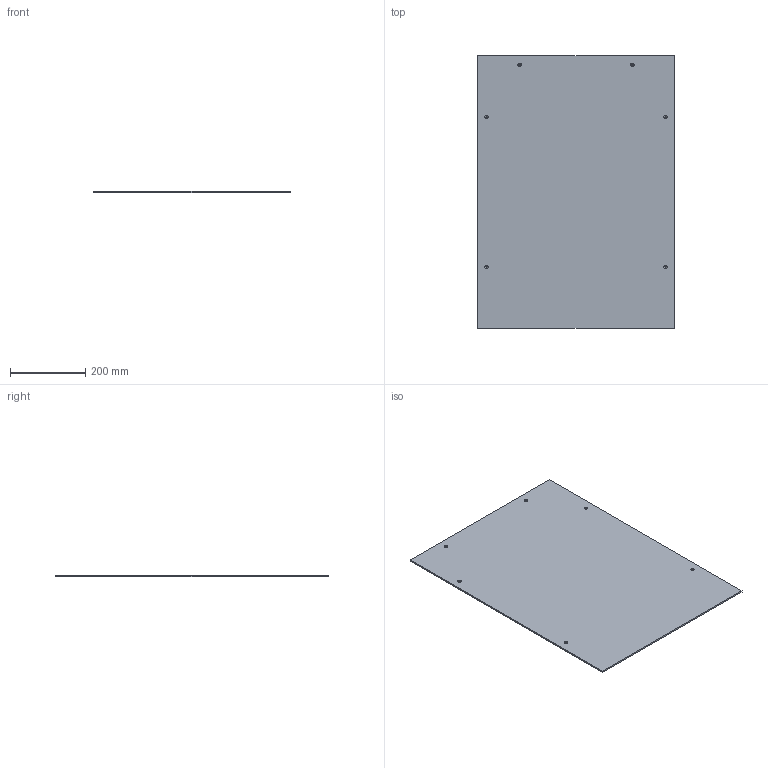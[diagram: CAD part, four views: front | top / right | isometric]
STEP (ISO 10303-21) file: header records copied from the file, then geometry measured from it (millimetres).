
FILE_DESCRIPTION (( 'STEP AP203' ), '1' );
FILE_NAME ('Planche_Déflecteur_Haut.STEP', '2026-06-24T07:29:50', ( '' ), ( '' ), 'SwSTEP 2.0', 'SolidWorks 2024', '' );
FILE_SCHEMA (( 'CONFIG_CONTROL_DESIGN' ));
Length unit declared in the file: millimetre
Products named in the file (1): Planche_Déflecteur_Haut
Bounding box: 524 x 725 x 4 mm (x, y, z)
Volume: 1518890 mm3; surface area: 769854.2 mm2
Topology: 1 solids, 1 shells, 18 faces, 48 edges, 32 vertices
Faces by surface type: plane 6, cylinder 6, cone 6
Full cylindrical faces by diameter (mm): 5 x6
Entity records: 555 total; most frequent: DIRECTION 86, CARTESIAN_POINT 75, ORIENTED_EDGE 60, EDGE_LOOP 42, AXIS2_PLACEMENT_3D 37, EDGE_CURVE 30, VERTEX_POINT 26, FACE_OUTER_BOUND 24
